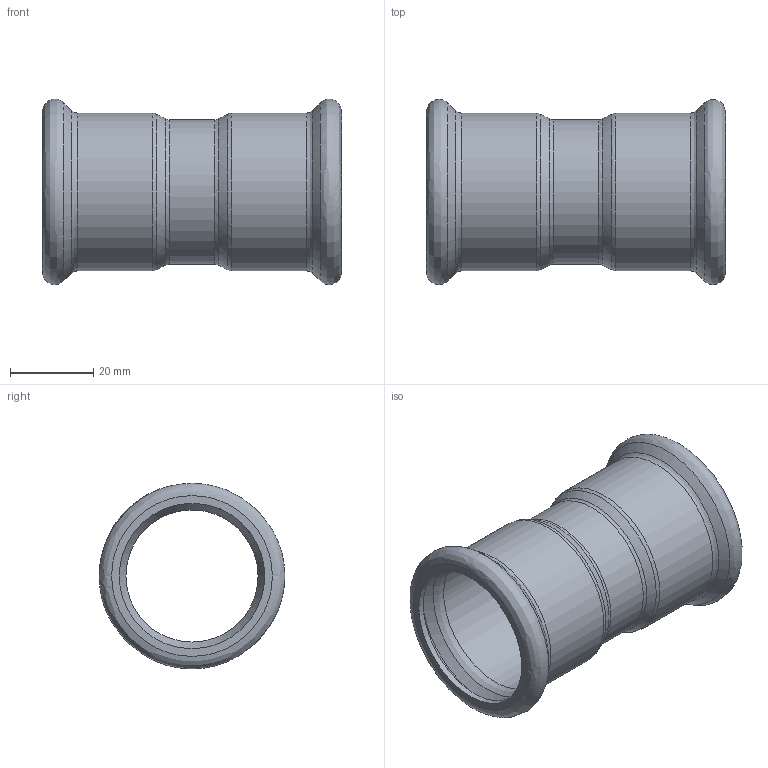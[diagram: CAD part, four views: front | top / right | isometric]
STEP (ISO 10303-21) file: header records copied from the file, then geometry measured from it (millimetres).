
FILE_DESCRIPTION(('FreeCAD Model'),'2;1');
FILE_NAME('Open CASCADE Shape Model','2025-10-20T15:02:37',('Author'),( ''),'Open CASCADE STEP processor 7.8','FreeCAD','Unknown');
FILE_SCHEMA(('AUTOMOTIVE_DESIGN { 1 0 10303 214 1 1 1 1 }'));
Length unit declared in the file: millimetre
Products named in the file (1): Solido2
Bounding box: 72 x 44.68 x 44.7 mm (x, y, z)
Volume: 13763.7 mm3; surface area: 18859.7 mm2
Topology: 1 solids, 1 shells, 32 faces, 114 edges, 86 vertices
Faces by surface type: bspline 32
Entity records: 1786 total; most frequent: CARTESIAN_POINT 1205, ORIENTED_EDGE 228, EDGE_CURVE 114, VERTEX_POINT 86, FACE_BOUND 36, EDGE_LOOP 36, ADVANCED_FACE 32, B_SPLINE_CURVE_WITH_KNOTS 16
